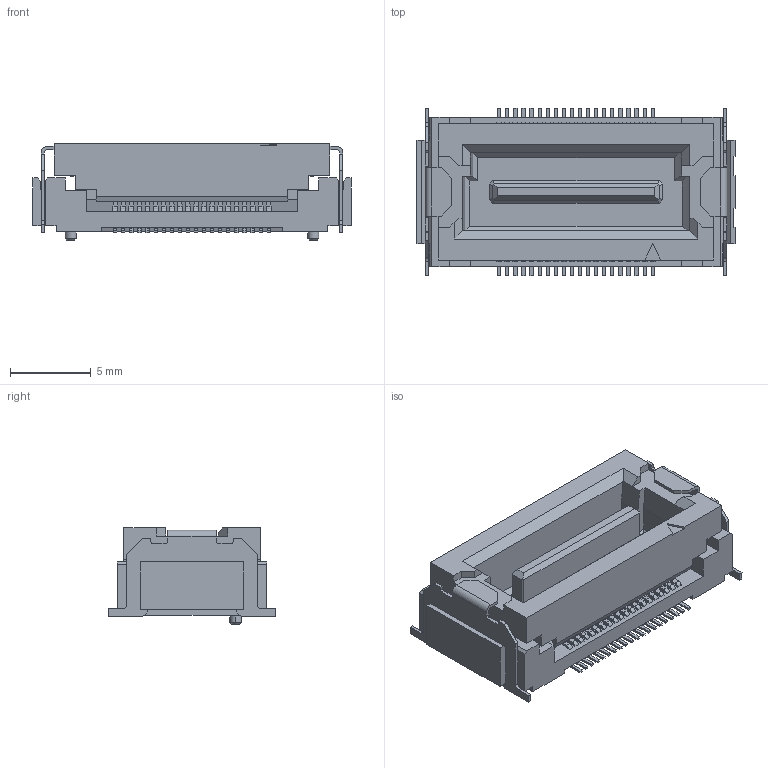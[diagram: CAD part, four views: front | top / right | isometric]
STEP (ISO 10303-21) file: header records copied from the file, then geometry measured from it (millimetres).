
FILE_DESCRIPTION(('Creo Elements/Direct Modeling STEP Export'),'2;1');
FILE_NAME('P3D071_DT01-040S-T.stp','2017-08-11T 9:36:20',(''),(''),'Creo Elements/Direct Modeling STEP processor for AP214 (Solid Model)','Creo Elements/Direct Modeling 19.0F 14-Feb-2017 (C) Parametric Technology GmbH','');
FILE_SCHEMA(('AUTOMOTIVE_DESIGN { 1 0 10303 214 1 1 1 1 }'));
Length unit declared in the file: millimetre
Products named in the file (2): DT01-040S-T
Assembly tree (1 placements, depth 2):
  DT01-040S-T
    DT01-040S-T
Bounding box: 19.7 x 10.38 x 5.95 mm (x, y, z)
Volume: 588.9 mm3; surface area: 1259.2 mm2
Topology: 1 solids, 1 shells, 1342 faces, 3707 edges, 2410 vertices
Faces by surface type: plane 1078, cylinder 260, cone 4
Entity records: 41691 total; most frequent: ORIENTED_EDGE 7414, CARTESIAN_POINT 7285, DIRECTION 6650, EDGE_CURVE 3707, VECTOR 3100, LINE 3100, VERTEX_POINT 2410, AXIS2_PLACEMENT_3D 1775
